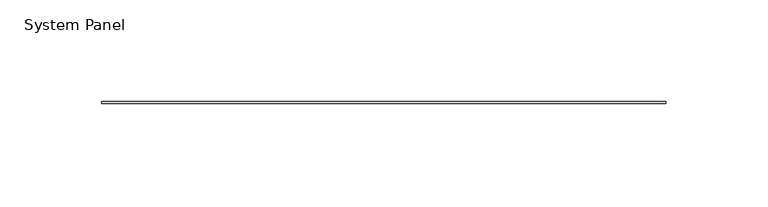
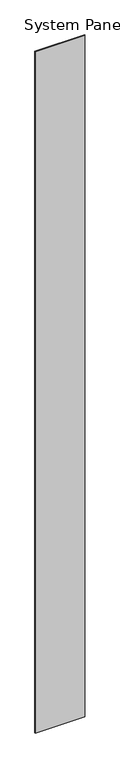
"""IFC4 building model written with IfcOpenShell, lengths in millimetres: plate geometry, System Panel : Stratco_Hiland_Interlock_Panel."""

from ifc_helpers import new_model, si_unit, origin, origin_with_axes, place, context, project, spatial, polyline, outline, extrude, source, transform, mapped, element, save


def system_panel_f4c263fd(model_context):
    return source(origin(), model_context, "Body", "SweptSolid", [
        extrude(outline(polyline([(138.4999998, 24.0), (-138.4999998, 24.0), (-138.4999998, 25.0), (138.4999998, 25.0), (138.4999998, 24.0)])), origin_with_axes(), (0.0, 0.0, 1.0), 4000.0),
    ])


if __name__ == "__main__":
    model = new_model("IFC4")
    model_context = context("Model", 3, world=origin())
    ifc_project = project(units=[si_unit("LENGTHUNIT", "METRE", prefix="MILLI")], contexts=[model_context])
    site = spatial("IfcSite", under=ifc_project)
    building = spatial("IfcBuilding", under=site)
    placement = place(None, origin())
    system_panel_shape = system_panel_f4c263fd(model_context)
    element("IfcPlate", 1, ObjectType="System Panel : Stratco_Hiland_Interlock_Panel", at=placement, inside=building, context=model_context, shape_type="MappedRepresentation", body=[
        mapped(system_panel_shape, transform((0.0, 0.0, 0.0), x_axis=(1.0, 0.0, 0.0), y_axis=(0.0, 1.0, 0.0), z_axis=(0.0, 0.0, 1.0))),
    ])
    save(model, "model.ifc")
